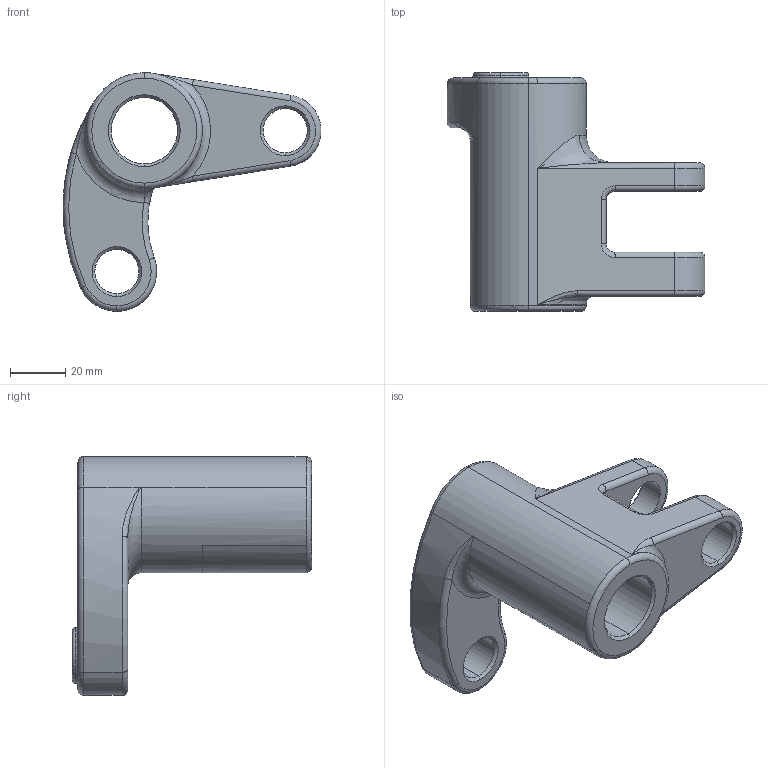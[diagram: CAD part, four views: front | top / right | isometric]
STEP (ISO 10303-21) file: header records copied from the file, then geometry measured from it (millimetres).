
FILE_DESCRIPTION (( 'STEP AP203' ), '1' );
FILE_NAME ('YYDK-500-0061 右门支架（500T）.STEP', '2026-03-14T06:51:00', ( 'Windows 用户' ), ( '' ), 'SwSTEP 2.0', 'SolidWorks 2020', '' );
FILE_SCHEMA (( 'CONFIG_CONTROL_DESIGN' ));
Length unit declared in the file: millimetre
Products named in the file (1): YYDK-500-0061 右门支架（500T）
Bounding box: 93.36 x 86.55 x 86.4 mm (x, y, z)
Volume: 140476.3 mm3; surface area: 31072.5 mm2
Topology: 1 solids, 1 shells, 95 faces, 234 edges, 138 vertices
Faces by surface type: cylinder 36, torus 25, bspline 13, plane 11, cone 10
Entity records: 3715 total; most frequent: CARTESIAN_POINT 1461, DIRECTION 470, ORIENTED_EDGE 460, EDGE_CURVE 230, AXIS2_PLACEMENT_3D 202, VERTEX_POINT 138, CIRCLE 119, EDGE_LOOP 104
